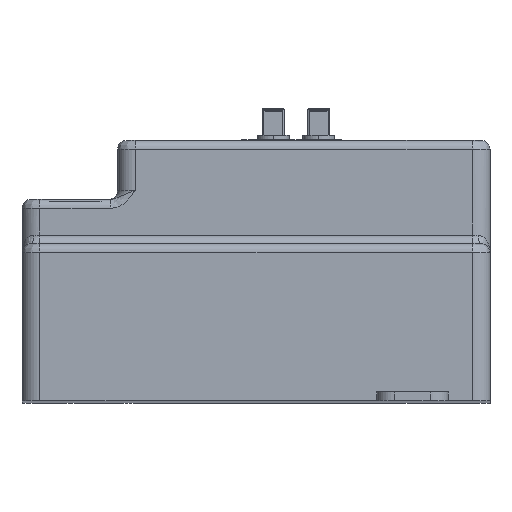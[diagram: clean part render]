
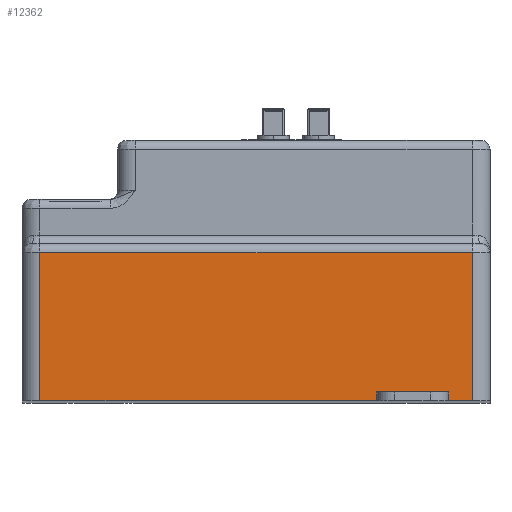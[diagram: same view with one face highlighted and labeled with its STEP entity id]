
A CAD part, top view. The second image highlights one B-rep face of the part: STEP entity #12362.
In plain terms, the highlighted planar face has unit normal (0, 0, 1).
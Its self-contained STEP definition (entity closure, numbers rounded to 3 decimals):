
#5821=PLANE('',#115995);
#12362=ADVANCED_FACE('',(#18523),#5821,.F.);
#18523=FACE_OUTER_BOUND('',#24832,.T.);
#24832=EDGE_LOOP('',(#56937,#56938,#56939,#56940,#56941,#56942,#56943,#56944,
#56945,#56946,#56947,#56948));
#56937=ORIENTED_EDGE('',*,*,#82378,.F.);
#56938=ORIENTED_EDGE('',*,*,#82516,.T.);
#56939=ORIENTED_EDGE('',*,*,#82517,.T.);
#56940=ORIENTED_EDGE('',*,*,#82518,.T.);
#56941=ORIENTED_EDGE('',*,*,#82363,.F.);
#56942=ORIENTED_EDGE('',*,*,#82519,.T.);
#56943=ORIENTED_EDGE('',*,*,#82520,.T.);
#56944=ORIENTED_EDGE('',*,*,#82521,.T.);
#56945=ORIENTED_EDGE('',*,*,#82372,.F.);
#56946=ORIENTED_EDGE('',*,*,#82522,.F.);
#56947=ORIENTED_EDGE('',*,*,#82442,.F.);
#56948=ORIENTED_EDGE('',*,*,#82523,.T.);
#67081=VERTEX_POINT('',#185697);
#67083=VERTEX_POINT('',#185700);
#67091=VERTEX_POINT('',#185717);
#67092=VERTEX_POINT('',#185718);
#67097=VERTEX_POINT('',#185728);
#67098=VERTEX_POINT('',#185730);
#67157=VERTEX_POINT('',#185876);
#67158=VERTEX_POINT('',#185878);
#67193=VERTEX_POINT('',#186258);
#67194=VERTEX_POINT('',#186260);
#67195=VERTEX_POINT('',#186263);
#67196=VERTEX_POINT('',#186265);
#82363=EDGE_CURVE('',#67081,#67083,#95603,.T.);
#82372=EDGE_CURVE('',#67091,#67092,#95605,.T.);
#82378=EDGE_CURVE('',#67097,#67098,#95609,.T.);
#82442=EDGE_CURVE('',#67157,#67158,#95650,.T.);
#82516=EDGE_CURVE('',#67097,#67193,#95692,.T.);
#82517=EDGE_CURVE('',#67193,#67194,#95693,.T.);
#82518=EDGE_CURVE('',#67194,#67083,#95694,.T.);
#82519=EDGE_CURVE('',#67081,#67195,#95695,.T.);
#82520=EDGE_CURVE('',#67195,#67196,#95696,.T.);
#82521=EDGE_CURVE('',#67196,#67092,#95697,.T.);
#82522=EDGE_CURVE('',#67158,#67091,#95698,.T.);
#82523=EDGE_CURVE('',#67157,#67098,#95699,.T.);
#95603=LINE('',#185699,#108749);
#95605=LINE('',#185716,#108751);
#95609=LINE('',#185729,#108755);
#95650=LINE('',#185877,#108796);
#95692=LINE('',#186257,#108838);
#95693=LINE('',#186259,#108839);
#95694=LINE('',#186261,#108840);
#95695=LINE('',#186262,#108841);
#95696=LINE('',#186264,#108842);
#95697=LINE('',#186266,#108843);
#95698=LINE('',#186267,#108844);
#95699=LINE('',#186268,#108845);
#108749=VECTOR('',#142942,1.);
#108751=VECTOR('',#142958,1.);
#108755=VECTOR('',#142966,1.);
#108796=VECTOR('',#143061,1.);
#108838=VECTOR('',#143207,1.);
#108839=VECTOR('',#143208,1.);
#108840=VECTOR('',#143209,1.);
#108841=VECTOR('',#143210,1.);
#108842=VECTOR('',#143211,1.);
#108843=VECTOR('',#143212,1.);
#108844=VECTOR('',#143213,1.);
#108845=VECTOR('',#143214,1.);
#115995=AXIS2_PLACEMENT_3D('',#186269,#143215,#143216);
#142942=DIRECTION('',(-1.,0.,0.));
#142958=DIRECTION('',(-1.,0.,0.));
#142966=DIRECTION('',(-1.,0.,0.));
#143061=DIRECTION('',(1.,0.,0.));
#143207=DIRECTION('',(0.,1.,0.));
#143208=DIRECTION('',(1.,0.,0.));
#143209=DIRECTION('',(0.,-1.,0.));
#143210=DIRECTION('',(0.,1.,0.));
#143211=DIRECTION('',(1.,0.,0.));
#143212=DIRECTION('',(0.,-1.,0.));
#143213=DIRECTION('',(0.,-1.,0.));
#143214=DIRECTION('',(0.,-1.,0.));
#143215=DIRECTION('',(0.,0.,-1.));
#143216=DIRECTION('',(1.,0.,0.));
#185697=CARTESIAN_POINT('',(394.002,150.642,457.238));
#185699=CARTESIAN_POINT('',(397.628,150.642,457.238));
#185700=CARTESIAN_POINT('',(390.255,150.642,457.238));
#185716=CARTESIAN_POINT('',(397.628,150.642,457.238));
#185717=CARTESIAN_POINT('',(398.828,150.642,457.238));
#185718=CARTESIAN_POINT('',(396.128,150.642,457.238));
#185728=CARTESIAN_POINT('',(388.128,150.642,457.238));
#185729=CARTESIAN_POINT('',(397.628,150.642,457.238));
#185730=CARTESIAN_POINT('',(350.428,150.642,457.238));
#185876=CARTESIAN_POINT('',(350.428,167.242,457.238));
#185877=CARTESIAN_POINT('',(351.628,167.242,457.238));
#185878=CARTESIAN_POINT('',(398.828,167.242,457.238));
#186257=CARTESIAN_POINT('',(388.128,168.242,457.238));
#186258=CARTESIAN_POINT('',(388.128,151.642,457.238));
#186259=CARTESIAN_POINT('',(399.628,151.642,457.238));
#186260=CARTESIAN_POINT('',(390.255,151.642,457.238));
#186261=CARTESIAN_POINT('',(390.255,150.642,457.238));
#186262=CARTESIAN_POINT('',(394.002,150.642,457.238));
#186263=CARTESIAN_POINT('',(394.002,151.642,457.238));
#186264=CARTESIAN_POINT('',(399.628,151.642,457.238));
#186265=CARTESIAN_POINT('',(396.128,151.642,457.238));
#186266=CARTESIAN_POINT('',(396.128,168.242,457.238));
#186267=CARTESIAN_POINT('',(398.828,167.242,457.238));
#186268=CARTESIAN_POINT('',(350.428,168.242,457.238));
#186269=CARTESIAN_POINT('',(399.628,168.242,457.238));
